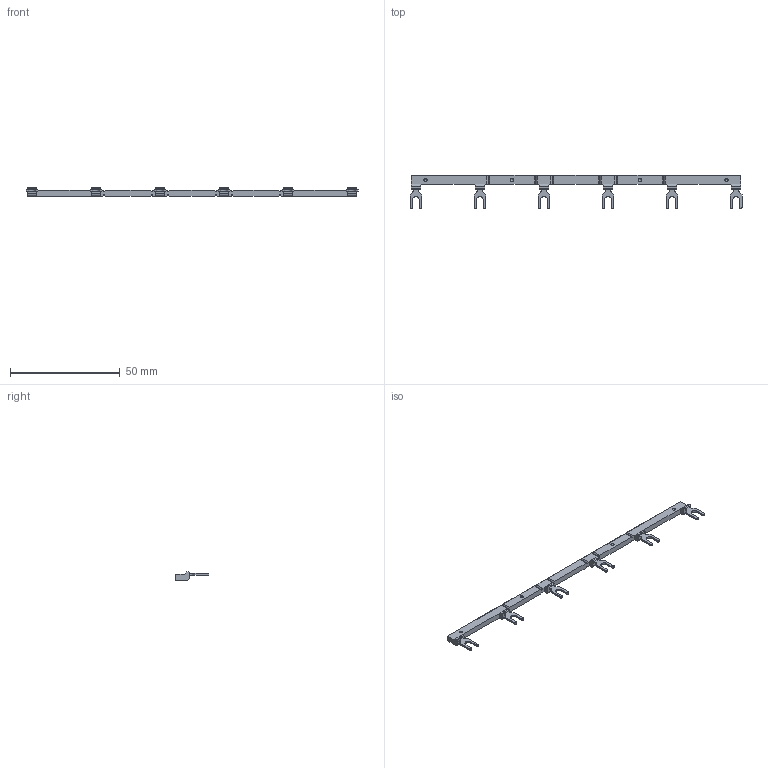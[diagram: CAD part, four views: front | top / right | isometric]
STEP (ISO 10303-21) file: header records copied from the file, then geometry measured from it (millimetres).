
FILE_DESCRIPTION(/* description */ (''),/* implementation_level */ '2;1');
FILE_NAME(/* name */ 'RF-NCP14F-6P.stp',/* time_stamp */ '2022-07-06T15:57:58+08:00',/* author */ (''),/* organization */ (''),/* preprocessor_version */ 'ST-DEVELOPER v16.7',/* originating_system */ 'SIEMENS PLM Software NX 12.0',/* authorisation */ '');
FILE_SCHEMA (('AUTOMOTIVE_DESIGN { 1 0 10303 214 3 1 1 1 }'));
Length unit declared in the file: millimetre
Products named in the file (1): RF-NCP14F-6P
Bounding box: 151.4 x 15.5 x 3.8 mm (x, y, z)
Volume: 1930.8 mm3; surface area: 2759 mm2
Topology: 1 solids, 1 shells, 218 faces, 627 edges, 417 vertices
Faces by surface type: plane 134, cylinder 76, cone 8
Full cylindrical faces by diameter (mm): 1.5 x8
Entity records: 7038 total; most frequent: CARTESIAN_POINT 1233, ORIENTED_EDGE 1200, DIRECTION 1190, EDGE_CURVE 600, LINE 448, VECTOR 448, VERTEX_POINT 414, AXIS2_PLACEMENT_3D 371
